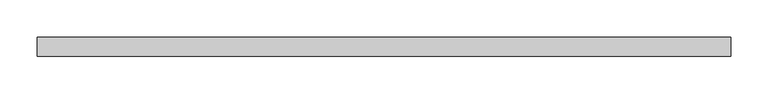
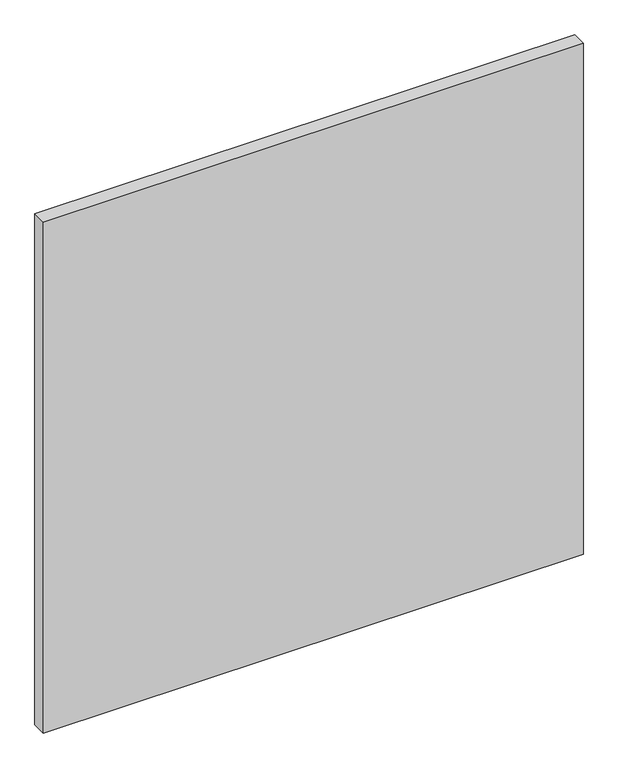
"""IFC4 building model written with IfcOpenShell, lengths in millimetres: plate geometry, Системная панель : ADSK_Cтеклопакет_25."""

from ifc_helpers import new_model, si_unit, origin, origin_with_axes, place, context, project, spatial, polyline, outline, extrude, source, transform, mapped, element, save


def plate_00605f7b(model_context):
    return source(origin(), model_context, "Body", "SweptSolid", [
        extrude(outline(polyline([(462.5000002, -12.5), (-462.5000002, -12.5), (-462.5000002, 12.5), (462.5000002, 12.5), (462.5000002, -12.5)])), origin_with_axes(), (0.0, 0.0, 1.0), 925.0),
    ])


if __name__ == "__main__":
    model = new_model("IFC4")
    model_context = context("Model", 3, world=origin())
    ifc_project = project(units=[si_unit("LENGTHUNIT", "METRE", prefix="MILLI")], contexts=[model_context])
    site = spatial("IfcSite", under=ifc_project)
    building = spatial("IfcBuilding", under=site)
    placement = place(None, origin())
    plate_shape = plate_00605f7b(model_context)
    element("IfcPlate", 1, ObjectType="Системная панель : ADSK_Cтеклопакет_25", at=placement, inside=building, context=model_context, shape_type="MappedRepresentation", body=[
        mapped(plate_shape, transform((0.0, 0.0, 0.0), x_axis=(1.0, 0.0, 0.0), y_axis=(0.0, 1.0, 0.0), z_axis=(0.0, 0.0, 1.0))),
    ])
    save(model, "model.ifc")
